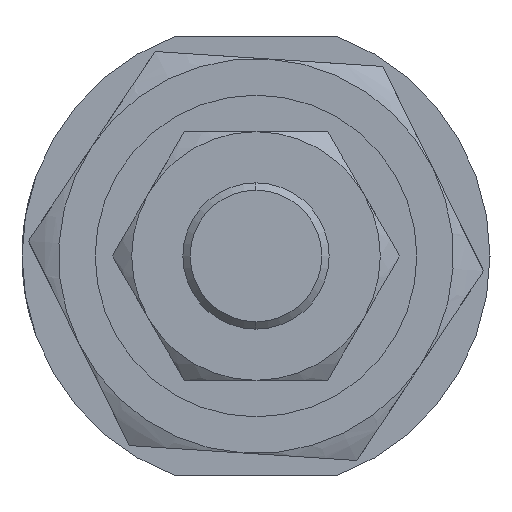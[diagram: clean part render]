
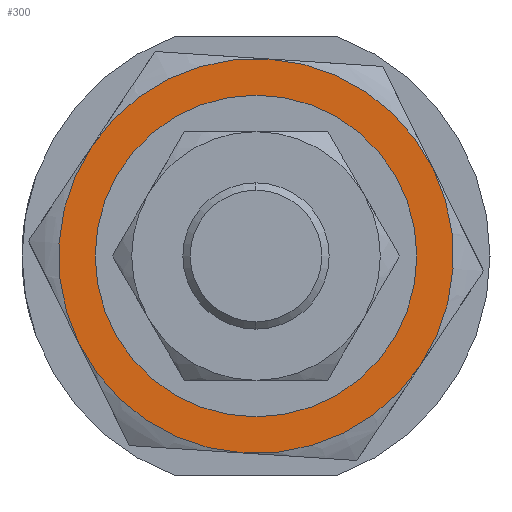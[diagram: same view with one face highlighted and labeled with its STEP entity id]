
A CAD part, left-side view. The second image highlights one B-rep face of the part: STEP entity #300.
In plain terms, the highlighted planar face has unit normal (-1, 0, 0) as drawn and (0, 0, -1) by its records, which use the part's own axes.
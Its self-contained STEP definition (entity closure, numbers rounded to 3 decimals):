
#209 = DIRECTION ( 'NONE',  ( 1., 0., 0. ) ) ;
#300 = ADVANCED_FACE ( 'NONE', ( #3030, #2283 ), #2036, .F. ) ;
#301 = CARTESIAN_POINT ( 'NONE',  ( 0., 0., -5. ) ) ;
#360 = DIRECTION ( 'NONE',  ( 1., 0., 0. ) ) ;
#365 = AXIS2_PLACEMENT_3D ( 'NONE', #2637, #1753, #2368 ) ;
#388 = ORIENTED_EDGE ( 'NONE', *, *, #2577, .F. ) ;
#429 = DIRECTION ( 'NONE',  ( 0., 0., 1. ) ) ;
#432 = EDGE_CURVE ( 'NONE', #3186, #1846, #1413, .T. ) ;
#464 = DIRECTION ( 'NONE',  ( 0., 0., 1. ) ) ;
#501 = VERTEX_POINT ( 'NONE', #571 ) ;
#511 = EDGE_CURVE ( 'NONE', #2348, #2052, #1908, .T. ) ;
#537 = ORIENTED_EDGE ( 'NONE', *, *, #432, .T. ) ;
#569 = CARTESIAN_POINT ( 'NONE',  ( 13.5, 0., -5. ) ) ;
#571 = CARTESIAN_POINT ( 'NONE',  ( -6.75, -11.691, -5. ) ) ;
#636 = CARTESIAN_POINT ( 'NONE',  ( 0., 0., -5. ) ) ;
#661 = DIRECTION ( 'NONE',  ( 1., 0., 0. ) ) ;
#816 = ORIENTED_EDGE ( 'NONE', *, *, #2364, .F. ) ;
#832 = AXIS2_PLACEMENT_3D ( 'NONE', #2505, #1122, #2242 ) ;
#937 = DIRECTION ( 'NONE',  ( 0., 0., 1. ) ) ;
#977 = DIRECTION ( 'NONE',  ( 0., 0., 1. ) ) ;
#981 = CARTESIAN_POINT ( 'NONE',  ( -13.5, 0., -5. ) ) ;
#1001 = VERTEX_POINT ( 'NONE', #1343 ) ;
#1049 = ORIENTED_EDGE ( 'NONE', *, *, #511, .F. ) ;
#1071 = AXIS2_PLACEMENT_3D ( 'NONE', #636, #2152, #2254 ) ;
#1122 = DIRECTION ( 'NONE',  ( 0., 0., 1. ) ) ;
#1176 = AXIS2_PLACEMENT_3D ( 'NONE', #1823, #429, #1226 ) ;
#1226 = DIRECTION ( 'NONE',  ( 1., 0., 0. ) ) ;
#1249 = CIRCLE ( 'NONE', #1071, 13.5 ) ;
#1329 = DIRECTION ( 'NONE',  ( 0., 0., 1. ) ) ;
#1343 = CARTESIAN_POINT ( 'NONE',  ( -6.75, 11.691, -5. ) ) ;
#1398 = CARTESIAN_POINT ( 'NONE',  ( 0., 0., -5. ) ) ;
#1413 = CIRCLE ( 'NONE', #832, 10. ) ;
#1428 = AXIS2_PLACEMENT_3D ( 'NONE', #301, #977, #2905 ) ;
#1556 = AXIS2_PLACEMENT_3D ( 'NONE', #1398, #2228, #661 ) ;
#1557 = VERTEX_POINT ( 'NONE', #1564 ) ;
#1564 = CARTESIAN_POINT ( 'NONE',  ( 6.75, 11.691, -5. ) ) ;
#1629 = CIRCLE ( 'NONE', #2907, 13.5 ) ;
#1753 = DIRECTION ( 'NONE',  ( 0., 0., 1. ) ) ;
#1755 = CIRCLE ( 'NONE', #1176, 13.5 ) ;
#1802 = CARTESIAN_POINT ( 'NONE',  ( 0., 0., -5. ) ) ;
#1823 = CARTESIAN_POINT ( 'NONE',  ( 0., 0., -5. ) ) ;
#1846 = VERTEX_POINT ( 'NONE', #2352 ) ;
#1908 = CIRCLE ( 'NONE', #2096, 13.5 ) ;
#2028 = CIRCLE ( 'NONE', #1428, 10. ) ;
#2033 = ORIENTED_EDGE ( 'NONE', *, *, #2595, .F. ) ;
#2036 = PLANE ( 'NONE',  #1556 ) ;
#2052 = VERTEX_POINT ( 'NONE', #569 ) ;
#2063 = EDGE_CURVE ( 'NONE', #1846, #3186, #2028, .T. ) ;
#2096 = AXIS2_PLACEMENT_3D ( 'NONE', #1802, #464, #360 ) ;
#2152 = DIRECTION ( 'NONE',  ( 0., 0., 1. ) ) ;
#2228 = DIRECTION ( 'NONE',  ( 0., 0., 1. ) ) ;
#2242 = DIRECTION ( 'NONE',  ( 1., 0., 0. ) ) ;
#2254 = DIRECTION ( 'NONE',  ( 1., 0., 0. ) ) ;
#2283 = FACE_OUTER_BOUND ( 'NONE', #2296, .T. ) ;
#2296 = EDGE_LOOP ( 'NONE', ( #816, #1049, #388, #2725, #3079, #2033 ) ) ;
#2303 = CARTESIAN_POINT ( 'NONE',  ( 6.75, -11.691, -5. ) ) ;
#2325 = ORIENTED_EDGE ( 'NONE', *, *, #2063, .T. ) ;
#2348 = VERTEX_POINT ( 'NONE', #2303 ) ;
#2352 = CARTESIAN_POINT ( 'NONE',  ( 10., 0., -5. ) ) ;
#2364 = EDGE_CURVE ( 'NONE', #2052, #1557, #1629, .T. ) ;
#2368 = DIRECTION ( 'NONE',  ( 1., 0., 0. ) ) ;
#2408 = CARTESIAN_POINT ( 'NONE',  ( 0., 0., -5. ) ) ;
#2505 = CARTESIAN_POINT ( 'NONE',  ( 0., 0., -5. ) ) ;
#2577 = EDGE_CURVE ( 'NONE', #501, #2348, #3040, .T. ) ;
#2595 = EDGE_CURVE ( 'NONE', #1557, #1001, #3144, .T. ) ;
#2637 = CARTESIAN_POINT ( 'NONE',  ( 0., 0., -5. ) ) ;
#2725 = ORIENTED_EDGE ( 'NONE', *, *, #3012, .F. ) ;
#2727 = AXIS2_PLACEMENT_3D ( 'NONE', #3159, #1329, #209 ) ;
#2804 = DIRECTION ( 'NONE',  ( 1., 0., 0. ) ) ;
#2879 = EDGE_LOOP ( 'NONE', ( #2325, #537 ) ) ;
#2895 = EDGE_CURVE ( 'NONE', #1001, #2943, #1249, .T. ) ;
#2905 = DIRECTION ( 'NONE',  ( 1., 0., 0. ) ) ;
#2907 = AXIS2_PLACEMENT_3D ( 'NONE', #2408, #937, #2804 ) ;
#2943 = VERTEX_POINT ( 'NONE', #981 ) ;
#3012 = EDGE_CURVE ( 'NONE', #2943, #501, #1755, .T. ) ;
#3030 = FACE_BOUND ( 'NONE', #2879, .T. ) ;
#3040 = CIRCLE ( 'NONE', #365, 13.5 ) ;
#3079 = ORIENTED_EDGE ( 'NONE', *, *, #2895, .F. ) ;
#3116 = CARTESIAN_POINT ( 'NONE',  ( -10., 0., -5. ) ) ;
#3144 = CIRCLE ( 'NONE', #2727, 13.5 ) ;
#3159 = CARTESIAN_POINT ( 'NONE',  ( 0., 0., -5. ) ) ;
#3186 = VERTEX_POINT ( 'NONE', #3116 ) ;
